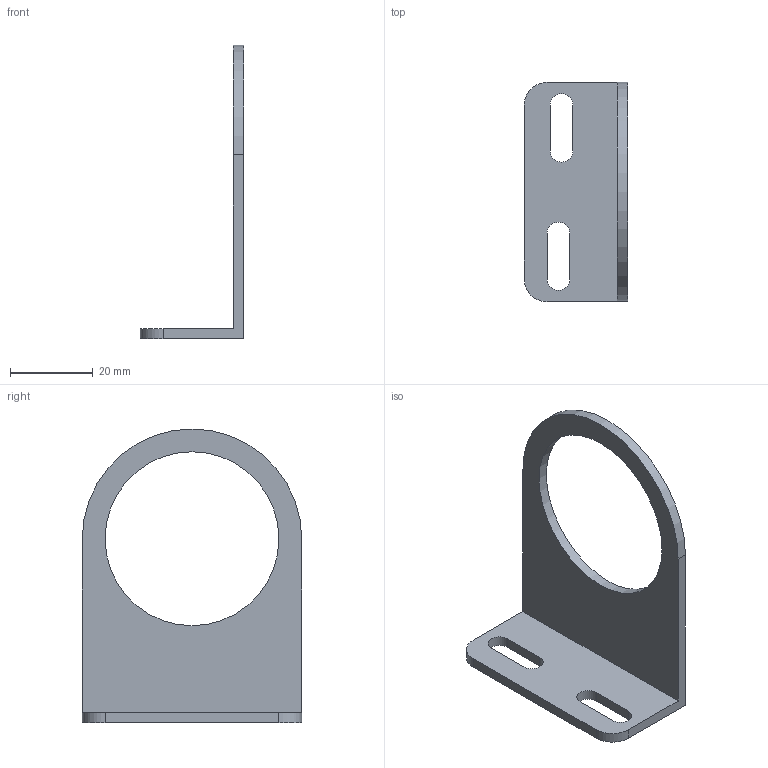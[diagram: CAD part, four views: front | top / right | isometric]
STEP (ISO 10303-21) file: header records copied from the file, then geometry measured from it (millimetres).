
FILE_DESCRIPTION( ( 'STEP AP203' ), '1' );
FILE_NAME( 'p:/temp/worker_203/temp/exporttempdir_3800_33_jRE9E/format_0/17250.stp', '2021-02-05T12:34:13', ( 'License CC BY-ND 4.0' ), ( 'CADENAS' ), ' ', 'PARTsolutions', ' ' );
FILE_SCHEMA( ( 'CONFIG_CONTROL_DESIGN' ) );
Length unit declared in the file: millimetre
Products named in the file (1): _17250
Bounding box: 25 x 53 x 71 mm (x, y, z)
Volume: 7717.9 mm3; surface area: 7364.4 mm2
Topology: 1 solids, 1 shells, 19 faces, 51 edges, 34 vertices
Faces by surface type: plane 11, cylinder 8
Full cylindrical faces by diameter (mm): 42 x1
Entity records: 652 total; most frequent: DIRECTION 106, CARTESIAN_POINT 104, ORIENTED_EDGE 100, EDGE_CURVE 50, AXIS2_PLACEMENT_3D 36, VERTEX_POINT 34, LINE 34, VECTOR 34
